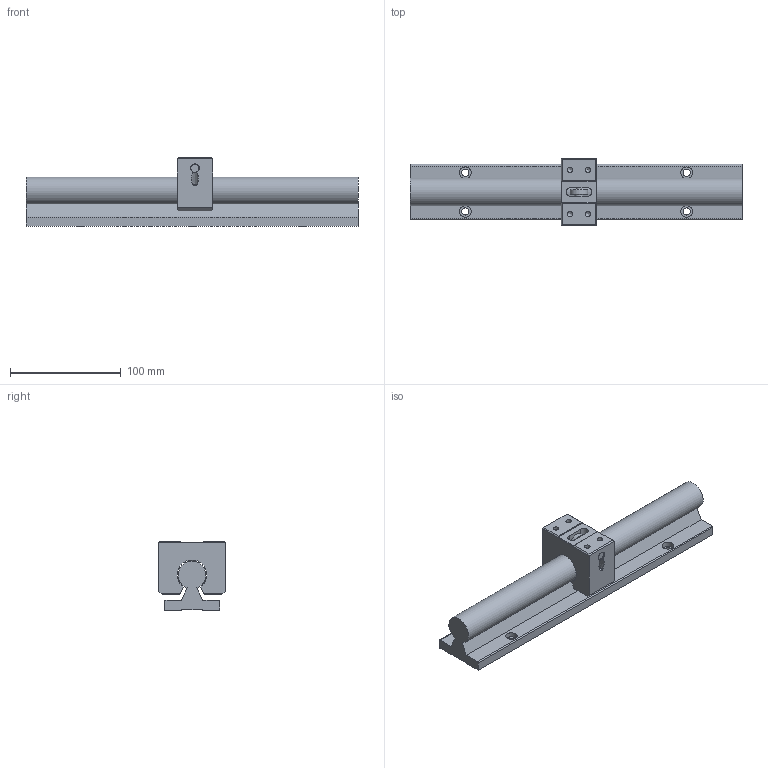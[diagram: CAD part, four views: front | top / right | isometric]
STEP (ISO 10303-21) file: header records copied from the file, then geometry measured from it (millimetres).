
FILE_DESCRIPTION((''),'2;1');
FILE_NAME('D:\製品 (図面)\カタログ用3D\リニアガイド関連\STEP形式\SLGA\SLGA25.stp','2010-06-02T16:54:45',('Tsuchiya'),(''),'Autodesk Inventor 10','Autodesk Inventor 10','');
FILE_SCHEMA(('AUTOMOTIVE_DESIGN { 1 0 10303 214 1 1 1 1 }'));
Length unit declared in the file: millimetre
Products named in the file (3): SLGA25; SLGA251; SLGA252
Assembly tree (2 placements, depth 2):
  SLGA25
    SLGA251
    SLGA252
Bounding box: 300 x 60 x 62 mm (x, y, z)
Volume: 385690.8 mm3; surface area: 78456.9 mm2
Topology: 2 solids, 2 shells, 143 faces, 338 edges, 219 vertices
Faces by surface type: plane 69, bspline 33, cylinder 24, cone 14, torus 3
Full cylindrical faces by diameter (mm): 4.917 x2, 5 x3, 5.5 x3, 8 x3, 16 x3
Entity records: 4234 total; most frequent: CARTESIAN_POINT 1226, DIRECTION 580, ORIENTED_EDGE 544, EDGE_CURVE 272, EDGE_LOOP 230, AXIS2_PLACEMENT_3D 218, VERTEX_POINT 204, VECTOR 144
